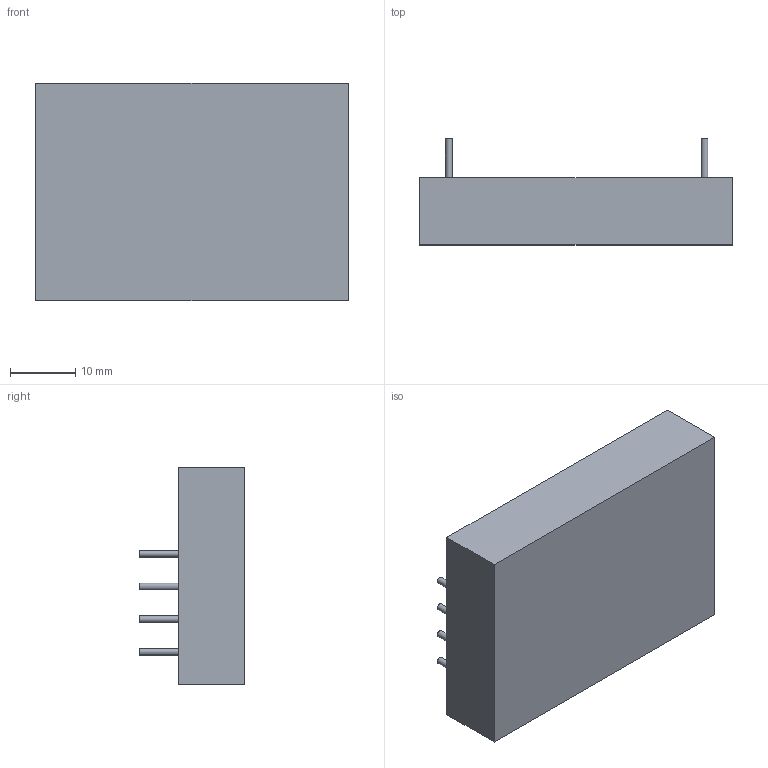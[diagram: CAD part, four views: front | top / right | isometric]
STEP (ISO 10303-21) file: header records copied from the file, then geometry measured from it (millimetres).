
FILE_DESCRIPTION(('STEP AP203'), '1');
FILE_NAME('ﾌﾄﾌ25-2ﾏ ﾈ2', '', ('UNSPECIFIED'), ('UNSPECIFIED'), 'C3D Converter', 'C3D Toolkit', '');
FILE_SCHEMA(('CONFIG_CONTROL_DESIGN'));
Length unit declared in the file: millimetre
Products named in the file (1): МДМ7,5(10)-1
Bounding box: 47.7 x 16.2 x 33.2 mm (x, y, z)
Volume: 16190.8 mm3; surface area: 4968.4 mm2
Topology: 1 solids, 1 shells, 22 faces, 36 edges, 24 vertices
Faces by surface type: plane 14, cylinder 8
Full cylindrical faces by diameter (mm): 1 x8
Entity records: 687 total; most frequent: DIRECTION 90, CARTESIAN_POINT 75, ORIENTED_EDGE 56, AXIS2_PLACEMENT_3D 39, EDGE_LOOP 38, EDGE_CURVE 28, VERTEX_POINT 24, COLOUR_RGB 23
